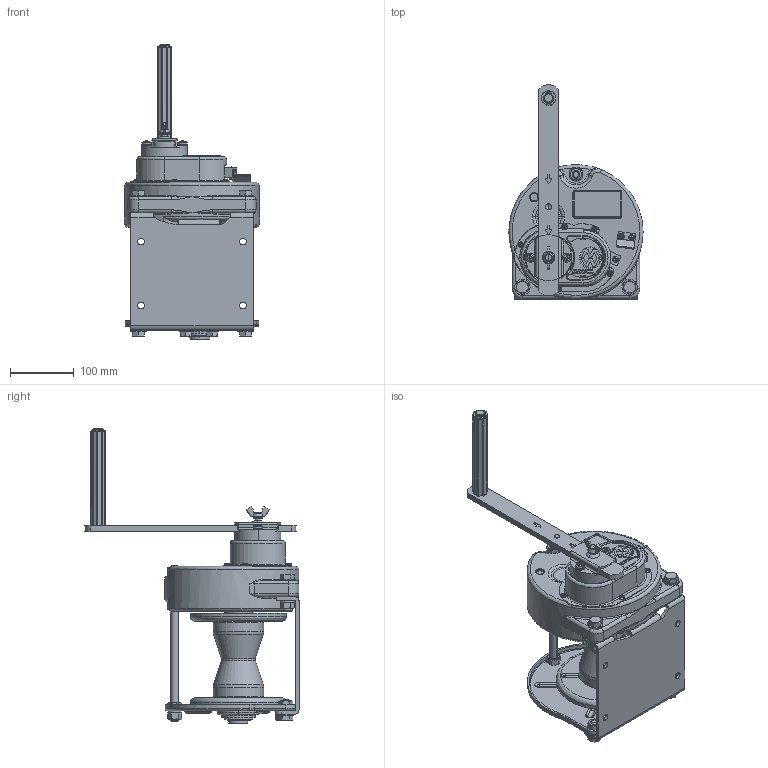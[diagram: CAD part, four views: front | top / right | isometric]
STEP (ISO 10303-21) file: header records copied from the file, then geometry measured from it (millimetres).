
FILE_DESCRIPTION( (''), '2;1');
FILE_NAME ('MC-3.stp','2023-12-25T11:45:46',(''),(''),'spGate 19.8.2 (****-****-****-****)','','');
FILE_SCHEMA (('AUTOMOTIVE_DESIGN'));
Length unit declared in the file: millimetre
Products named in the file (3): Assembly; MC-3-prt0; MC-3-prt1
Assembly tree (2 placements, depth 2):
  Assembly
    MC-3-prt0
    MC-3-prt1
Bounding box: 209.96 x 335.43 x 463.5 mm (x, y, z)
Volume: 3955817.8 mm3; surface area: 544097.8 mm2
Topology: 2 solids, 2 shells, 2210 faces, 5754 edges, 3598 vertices
Faces by surface type: plane 1092, cylinder 694, bspline 352, sphere 72
Entity records: 120155 total; most frequent: CARTESIAN_POINT 21995, ORIENTED_EDGE 11356, DIRECTION 10836, COLOUR_RGB 7890, PRESENTATION_STYLE_ASSIGNMENT 7890, STYLED_ITEM 7890, EDGE_CURVE 5678, DRAUGHTING_PRE_DEFINED_CURVE_FONT 5678
